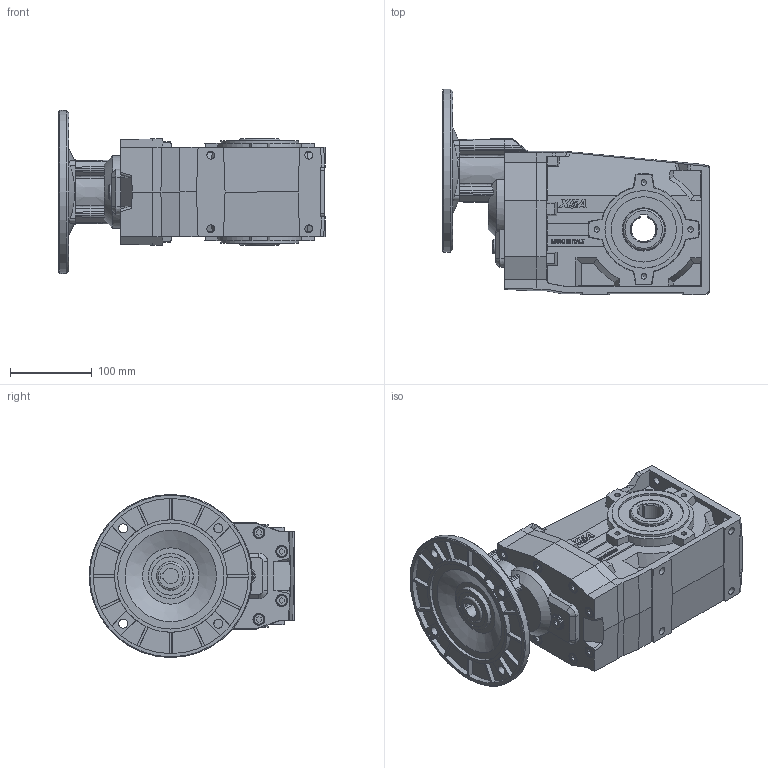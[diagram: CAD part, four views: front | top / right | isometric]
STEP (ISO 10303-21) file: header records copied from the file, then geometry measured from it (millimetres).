
FILE_DESCRIPTION( ( 'Unknown' ), '1' );
FILE_NAME( 'E:/services/configuratordownloads/customers/HYDROMEC/X/download/9DE7BA78ED92DA855D947BA46A2AA66/STEP/9DE7BA78ED92DA855D947BA46A2AA66.3d.stp', 'Unknown', ( 'Unknown' ), ( 'Unknown' ), 'PSStep 10.1', 'Unknown', ' ' );
FILE_SCHEMA( ( 'AUTOMOTIVE_DESIGN { 1 0 10303 214 1 1 1 1 }' ) );
Length unit declared in the file: millimetre
Products named in the file (1): X5A8800
Bounding box: 326 x 251.98 x 199.97 mm (x, y, z)
Volume: 4934765.9 mm3; surface area: 342282 mm2
Topology: 1 solids, 23 shells, 1110 faces, 2847 edges, 1863 vertices
Faces by surface type: plane 802, cone 127, cylinder 127, torus 21, bspline 17, extrusion 16
Full cylindrical faces by diameter (mm): 4.917 x8, 6 x8, 6.647 x16, 9.5 x8, 11 x4, 12 x8, 13 x8, 13.5 x1, 18 x1, 19 x1, 21 x1, 35 x2, 47 x2, 50.05 x2, 80 x2, 95 x2, 130 x1
Entity records: 42976 total; most frequent: CARTESIAN_POINT 8470, DIRECTION 5102, ORIENTED_EDGE 5090, EDGE_CURVE 2545, VERTEX_POINT 1772, VECTOR 1734, LINE 1718, AXIS2_PLACEMENT_3D 1684
